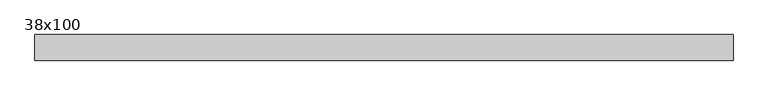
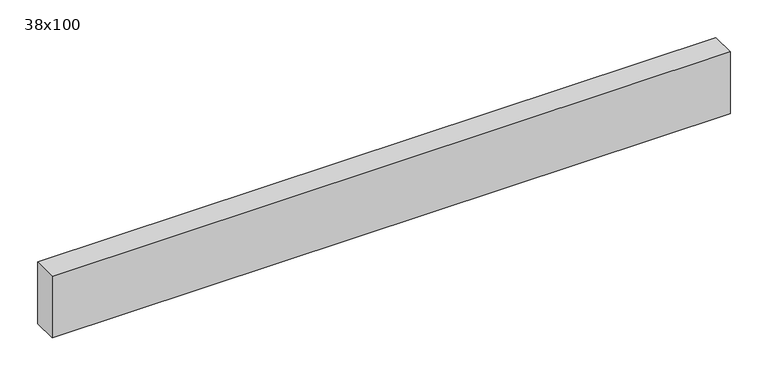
"""IFC4 building model written with IfcOpenShell, lengths in millimetres: beam geometry, Poutre - Bois de construction de dimensions courantes : 38x100."""

from ifc_helpers import new_model, si_unit, frame, origin, place, context, project, spatial, polyline, outline, extrude, source, transform, mapped, element, save


def beam_38x100_0233a9d0(model_context):
    return source(origin(), model_context, "Body", "SweptSolid", [
        extrude(outline(polyline([(489.5, 19.05), (489.5, -19.05), (-549.5, -19.05), (-549.5, 19.05), (489.5, 19.05)])), frame((0.0, 0.0, -50.0), z_axis=(0.0, 0.0, 1.0), x_axis=(1.0, 0.0, 0.0)), (0.0, 0.0, 1.0), 100.0),
    ])


if __name__ == "__main__":
    model = new_model("IFC4")
    model_context = context("Model", 3, world=origin())
    ifc_project = project(units=[si_unit("LENGTHUNIT", "METRE", prefix="MILLI")], contexts=[model_context])
    site = spatial("IfcSite", under=ifc_project)
    building = spatial("IfcBuilding", under=site)
    placement = place(None, origin())
    beam_38x100_shape = beam_38x100_0233a9d0(model_context)
    element("IfcBeam", 1, ObjectType="Poutre - Bois de construction de dimensions courantes : 38x100", at=placement, inside=building, context=model_context, shape_type="MappedRepresentation", body=[
        mapped(beam_38x100_shape, transform((0.0, 0.0, 0.0), x_axis=(1.0, 0.0, 0.0), y_axis=(0.0, 1.0, 0.0), z_axis=(0.0, 0.0, 1.0))),
    ])
    save(model, "model.ifc")
